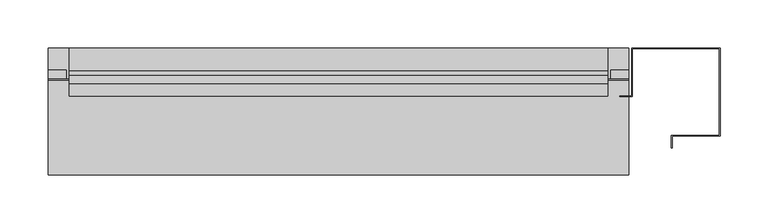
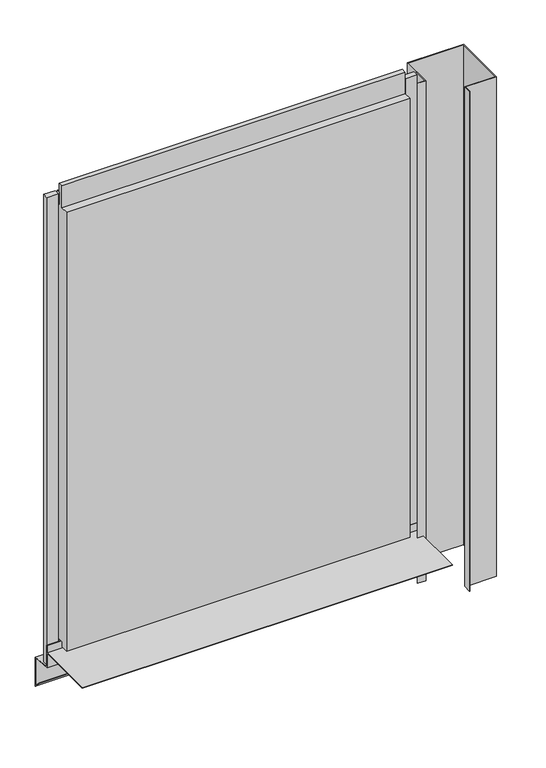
"""IFC4 building model written with IfcOpenShell, lengths in millimetres: plate geometry, Trimo_Qbiss Screen_Normal Panel-HORIZONTAL : HR - B."""

from ifc_helpers import new_model, si_unit, frame, origin, place, context, project, spatial, polyline, outline, extrude, source, transform, mapped, element, save


def plate_a826c487(model_context):
    return source(origin(), model_context, "Body", "SweptSolid", [
        extrude(outline(polyline([(111.7, 14.0835797), (112.5, 14.0835797), (112.5, -23.0), (145.0, -25.8433816), (145.0, -76.0), (132.1509533, -63.1509533), (132.7166388, -62.5852679), (144.2, -74.0686292), (144.2, -26.5764465), (111.7, -23.7330649), (111.7, 1.0), (12.5, 1.0), (12.5, 1.8), (111.7, 1.8), (111.7, 14.0835797)])), frame((-302.5, 0.0, 0.0), z_axis=(1.0, 0.0, 0.0), x_axis=(0.0, 1.0, 0.0)), (0.0, 0.0, 1.0), 605.0),
        extrude(outline(polyline([(-283.5, 121.5978162), (-283.5, 112.8978162), (-302.5, 112.8978162), (-302.5, 121.5978162), (-283.5, 121.5978162)])), frame((0.0, 0.0, -20.0), z_axis=(0.0, 0.0, 1.0), x_axis=(1.0, 0.0, 0.0)), (0.0, 0.0, 1.0), 806.95),
        extrude(outline(polyline([(283.5, 112.8978162), (283.5, 121.5978162), (302.5, 121.5978162), (302.5, 112.8978162), (283.5, 112.8978162)])), frame((0.0, 0.0, -20.0), z_axis=(0.0, 0.0, 1.0), x_axis=(1.0, 0.0, 0.0)), (0.0, 0.0, 1.0), 806.95),
        extrude(outline(polyline([(280.5, 121.0), (280.5, 116.0), (-280.5, 116.0), (-280.5, 121.0), (280.5, 121.0)])), frame((0.0, 0.0, 765.95), z_axis=(0.0, 0.0, 1.0), x_axis=(1.0, 0.0, 0.0)), (0.0, 0.0, 1.0), 21.0),
        extrude(outline(polyline([(116.0, 764.95), (145.0, 764.95), (145.0, 0.0), (117.0, 0.0), (117.0, 15.5), (107.0, 15.5), (107.0, 7.0), (95.0, 7.0), (95.0, 764.95), (108.0, 764.95), (108.0, 802.45), (116.0, 802.45), (116.0, 764.95)])), frame((-280.5, 0.0, 0.0), z_axis=(1.0, 0.0, 0.0), x_axis=(0.0, 1.0, 0.0)), (0.0, 0.0, 1.0), 561.0),
        extrude(outline(polyline([(305.5, 95.0), (305.5, 145.0), (397.5, 145.0), (397.5, 53.0), (347.5, 53.0), (347.5, 40.5), (346.7, 40.5), (346.7, 53.8), (396.7, 53.8), (396.7, 144.2), (306.3, 144.2), (306.3, 94.1823429), (293.0, 94.1823429), (293.0, 95.0), (305.5, 95.0)])), frame((0.0, 0.0, -76.0), z_axis=(0.0, 0.0, 1.0), x_axis=(1.0, 0.0, 0.0)), (0.0, 0.0, 1.0), 862.95),
    ])


if __name__ == "__main__":
    model = new_model("IFC4")
    model_context = context("Model", 3, world=origin())
    ifc_project = project(units=[si_unit("LENGTHUNIT", "METRE", prefix="MILLI")], contexts=[model_context])
    site = spatial("IfcSite", under=ifc_project)
    building = spatial("IfcBuilding", under=site)
    placement = place(None, origin())
    plate_shape = plate_a826c487(model_context)
    element("IfcPlate", 1, ObjectType="Trimo_Qbiss Screen_Normal Panel-HORIZONTAL : HR - B", at=placement, inside=building, context=model_context, shape_type="MappedRepresentation", body=[
        mapped(plate_shape, transform((0.0, 0.0, 0.0), x_axis=(1.0, 0.0, 0.0), y_axis=(0.0, 1.0, 0.0), z_axis=(0.0, 0.0, 1.0))),
    ])
    save(model, "model.ifc")
